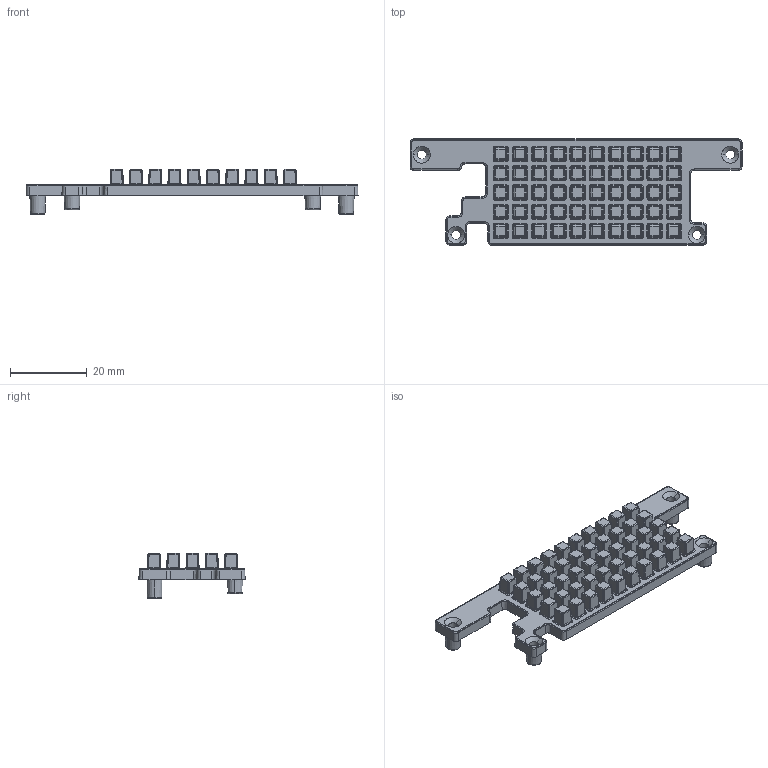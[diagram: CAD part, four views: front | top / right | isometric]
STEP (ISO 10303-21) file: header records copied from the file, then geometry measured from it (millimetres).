
FILE_DESCRIPTION (( 'STEP AP214' ), '1' );
FILE_NAME ('VSS0224-¦¨«~¹Ï(20250625).STEP', '2025-06-25T03:06:12', ( '' ), ( '' ), 'SwSTEP 2.0', 'SolidWorks 2023', '' );
FILE_SCHEMA (( 'AUTOMOTIVE_DESIGN' ));
Length unit declared in the file: millimetre
Products named in the file (1): VSS0224-成品圖(20250625)
Bounding box: 86.25 x 27.6 x 11.7 mm (x, y, z)
Volume: 7302 mm3; surface area: 6992.9 mm2
Topology: 1 solids, 1 shells, 2185 faces, 4936 edges, 2807 vertices
Faces by surface type: cylinder 1246, sphere 400, plane 275, bspline 202, cone 35, torus 27
Entity records: 73440 total; most frequent: CARTESIAN_POINT 27635, ORIENTED_EDGE 9872, DIRECTION 9063, EDGE_CURVE 4936, AXIS2_PLACEMENT_3D 3563, VERTEX_POINT 2807, EDGE_LOOP 2247, ADVANCED_FACE 2185
